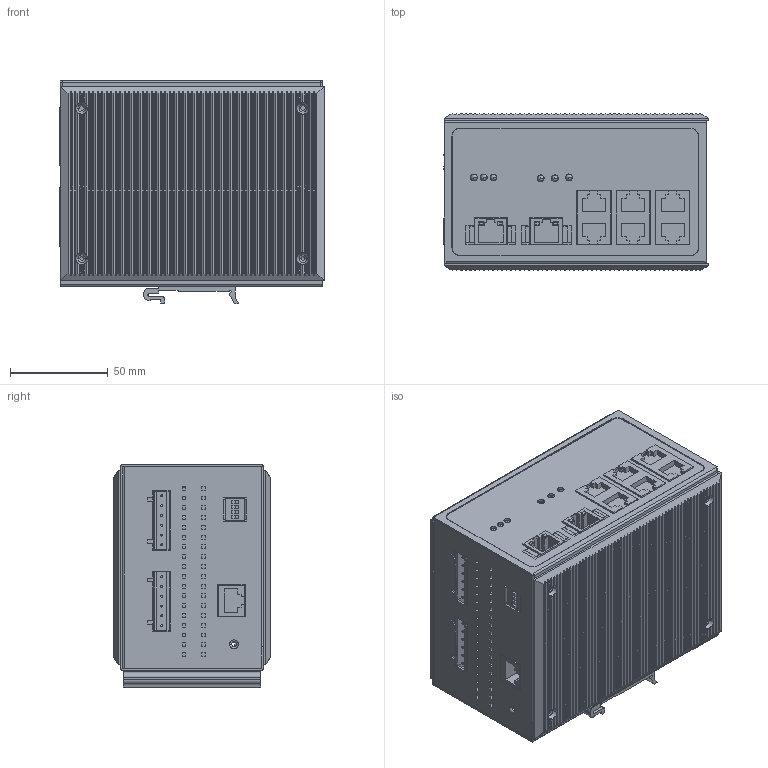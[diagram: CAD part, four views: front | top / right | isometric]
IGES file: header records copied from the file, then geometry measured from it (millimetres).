
Start section:  PTC IGES file: cu_mes-3980.igs
Global section: file name: cu_mes-3980.igs; native system: Pro/ENGINEER by Parametric Technology Corporation; preprocessor: 2006080; author: dcrowder; organization: Unknown; date: 080212.140311; units: millimetre
Bounding box: 135.3 x 80.18 x 114 mm (x, y, z)
Surface area: 265718.3 mm2 (no closed solid volume)
Topology: 0 solids, 0 shells, 2672 faces, 14006 edges, 13998 vertices
Faces by surface type: bspline 1641, revolution 1031
